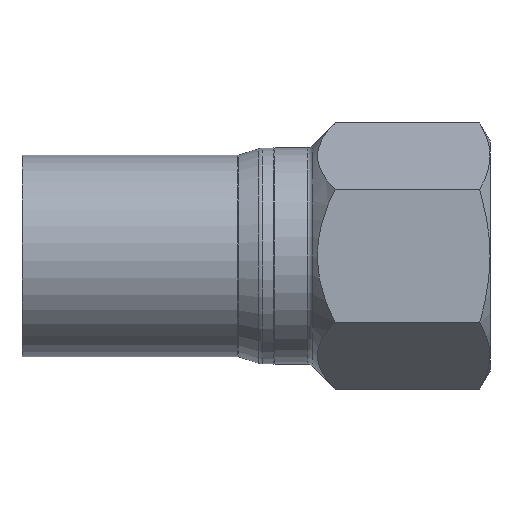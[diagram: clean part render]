
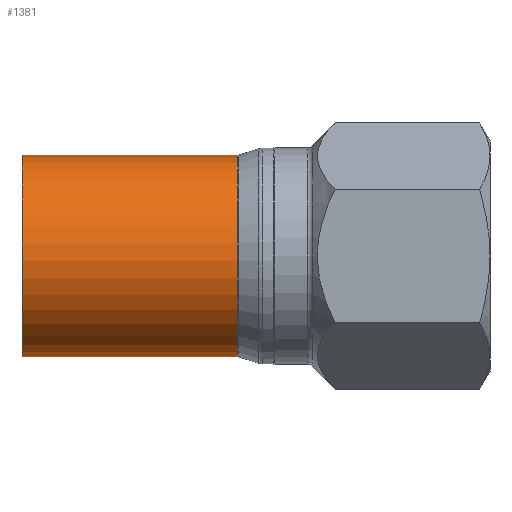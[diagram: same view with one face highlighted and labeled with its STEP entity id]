
A CAD part, front view. The second image highlights one B-rep face of the part: STEP entity #1381.
In plain terms, the highlighted cylindrical face has radius 14 mm (diameter 28 mm), a partial arc.
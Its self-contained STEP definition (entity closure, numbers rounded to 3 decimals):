
#10 = ORIENTED_EDGE ( 'NONE', *, *, #1525, .T. ) ;
#92 = DIRECTION ( 'NONE',  ( 0., 0., 1. ) ) ;
#119 = FACE_OUTER_BOUND ( 'NONE', #598, .T. ) ;
#123 = ORIENTED_EDGE ( 'NONE', *, *, #1435, .F. ) ;
#153 = CARTESIAN_POINT ( 'NONE',  ( -14., 0., 0. ) ) ;
#166 = CIRCLE ( 'NONE', #269, 14. ) ;
#196 = CARTESIAN_POINT ( 'NONE',  ( 0., 0., 0. ) ) ;
#245 = AXIS2_PLACEMENT_3D ( 'NONE', #519, #249, #1198 ) ;
#249 = DIRECTION ( 'NONE',  ( 0., 0., 1. ) ) ;
#269 = AXIS2_PLACEMENT_3D ( 'NONE', #196, #1425, #1444 ) ;
#519 = CARTESIAN_POINT ( 'NONE',  ( 0., 0., -29.922 ) ) ;
#579 = CARTESIAN_POINT ( 'NONE',  ( -14., 0., -29.922 ) ) ;
#598 = EDGE_LOOP ( 'NONE', ( #123, #10, #1056, #1655 ) ) ;
#681 = DIRECTION ( 'NONE',  ( 0., 0., 1. ) ) ;
#724 = VECTOR ( 'NONE', #681, 1000. ) ;
#742 = CARTESIAN_POINT ( 'NONE',  ( 14., 0., 1.75 ) ) ;
#876 = VECTOR ( 'NONE', #92, 1000. ) ;
#970 = VERTEX_POINT ( 'NONE', #153 ) ;
#1050 = DIRECTION ( 'NONE',  ( 0., 0., 1. ) ) ;
#1056 = ORIENTED_EDGE ( 'NONE', *, *, #1741, .T. ) ;
#1058 = EDGE_CURVE ( 'NONE', #970, #1705, #166, .T. ) ;
#1087 = DIRECTION ( 'NONE',  ( 1., 0., 0. ) ) ;
#1151 = VERTEX_POINT ( 'NONE', #1679 ) ;
#1198 = DIRECTION ( 'NONE',  ( 1., 0., 0. ) ) ;
#1252 = CIRCLE ( 'NONE', #245, 14. ) ;
#1306 = CARTESIAN_POINT ( 'NONE',  ( 0., 0., 1.75 ) ) ;
#1381 = ADVANCED_FACE ( 'NONE', ( #119 ), #1467, .T. ) ;
#1425 = DIRECTION ( 'NONE',  ( 0., 0., 1. ) ) ;
#1428 = LINE ( 'NONE', #742, #876 ) ;
#1435 = EDGE_CURVE ( 'NONE', #1724, #970, #1452, .T. ) ;
#1438 = AXIS2_PLACEMENT_3D ( 'NONE', #1306, #1050, #1087 ) ;
#1444 = DIRECTION ( 'NONE',  ( 1., 0., 0. ) ) ;
#1452 = LINE ( 'NONE', #1496, #724 ) ;
#1467 = CYLINDRICAL_SURFACE ( 'NONE', #1438, 14. ) ;
#1496 = CARTESIAN_POINT ( 'NONE',  ( -14., 0., 1.75 ) ) ;
#1499 = CARTESIAN_POINT ( 'NONE',  ( 14., 0., 0. ) ) ;
#1525 = EDGE_CURVE ( 'NONE', #1724, #1151, #1252, .T. ) ;
#1655 = ORIENTED_EDGE ( 'NONE', *, *, #1058, .F. ) ;
#1679 = CARTESIAN_POINT ( 'NONE',  ( 14., 0., -29.922 ) ) ;
#1705 = VERTEX_POINT ( 'NONE', #1499 ) ;
#1724 = VERTEX_POINT ( 'NONE', #579 ) ;
#1741 = EDGE_CURVE ( 'NONE', #1151, #1705, #1428, .T. ) ;
